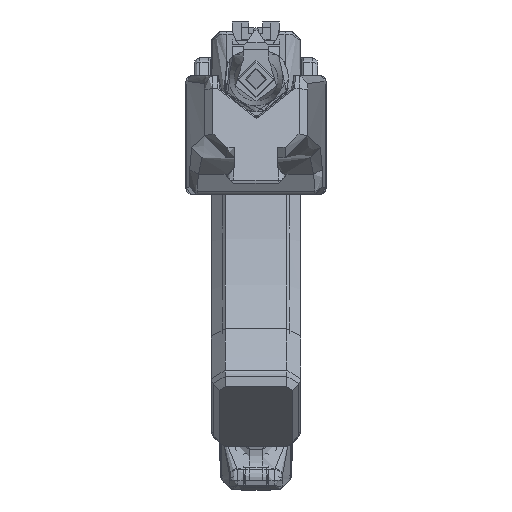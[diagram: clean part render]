
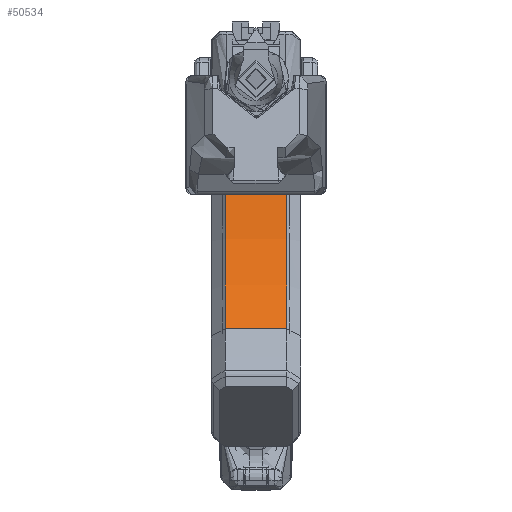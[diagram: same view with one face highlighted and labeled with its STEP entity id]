
A CAD part, front view. The second image highlights one B-rep face of the part: STEP entity #50534.
In plain terms, the highlighted cylindrical face has radius 155 mm (diameter 310 mm), a partial arc.
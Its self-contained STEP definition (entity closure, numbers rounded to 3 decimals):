
#4970=CIRCLE('',#55007,155.);
#4971=CIRCLE('',#55009,155.);
#8939=FACE_OUTER_BOUND('',#12066,.T.);
#12066=EDGE_LOOP('',(#45935,#45936,#45937,#45938));
#15300=LINE('',#116587,#18704);
#15391=LINE('',#117124,#18795);
#18704=VECTOR('',#66718,10.);
#18795=VECTOR('',#66981,10.);
#23773=VERTEX_POINT('',#116570);
#23774=VERTEX_POINT('',#116585);
#23906=VERTEX_POINT('',#117101);
#23907=VERTEX_POINT('',#117122);
#31146=EDGE_CURVE('',#23774,#23773,#15300,.T.);
#31306=EDGE_CURVE('',#23906,#23773,#4970,.T.);
#31308=EDGE_CURVE('',#23774,#23907,#4971,.T.);
#31309=EDGE_CURVE('',#23906,#23907,#15391,.T.);
#45935=ORIENTED_EDGE('',*,*,#31146,.F.);
#45936=ORIENTED_EDGE('',*,*,#31308,.T.);
#45937=ORIENTED_EDGE('',*,*,#31309,.F.);
#45938=ORIENTED_EDGE('',*,*,#31306,.T.);
#47662=CYLINDRICAL_SURFACE('',#55008,155.);
#50534=ADVANCED_FACE('',(#8939),#47662,.F.);
#55007=AXIS2_PLACEMENT_3D('',#117102,#66975,#66976);
#55008=AXIS2_PLACEMENT_3D('',#117121,#66977,#66978);
#55009=AXIS2_PLACEMENT_3D('',#117123,#66979,#66980);
#66718=DIRECTION('',(-1.,0.,0.));
#66975=DIRECTION('center_axis',(-1.,0.,0.));
#66976=DIRECTION('ref_axis',(0.,1.,0.));
#66977=DIRECTION('center_axis',(1.,0.,0.));
#66978=DIRECTION('ref_axis',(0.,1.,0.));
#66979=DIRECTION('center_axis',(1.,0.,0.));
#66980=DIRECTION('ref_axis',(0.,1.,0.));
#66981=DIRECTION('',(1.,0.,0.));
#116570=CARTESIAN_POINT('',(4.977,-18.759,-205.423));
#116585=CARTESIAN_POINT('',(26.977,-18.759,-205.423));
#116587=CARTESIAN_POINT('',(-1.623,-18.759,-205.423));
#117101=CARTESIAN_POINT('',(4.977,-0.714,-156.22));
#117102=CARTESIAN_POINT('Origin',(4.977,-153.164,-128.22));
#117121=CARTESIAN_POINT('Origin',(-1.623,-153.164,-128.22));
#117122=CARTESIAN_POINT('',(26.977,-0.714,-156.22));
#117123=CARTESIAN_POINT('Origin',(26.977,-153.164,-128.22));
#117124=CARTESIAN_POINT('',(-1.623,-0.714,-156.22));
